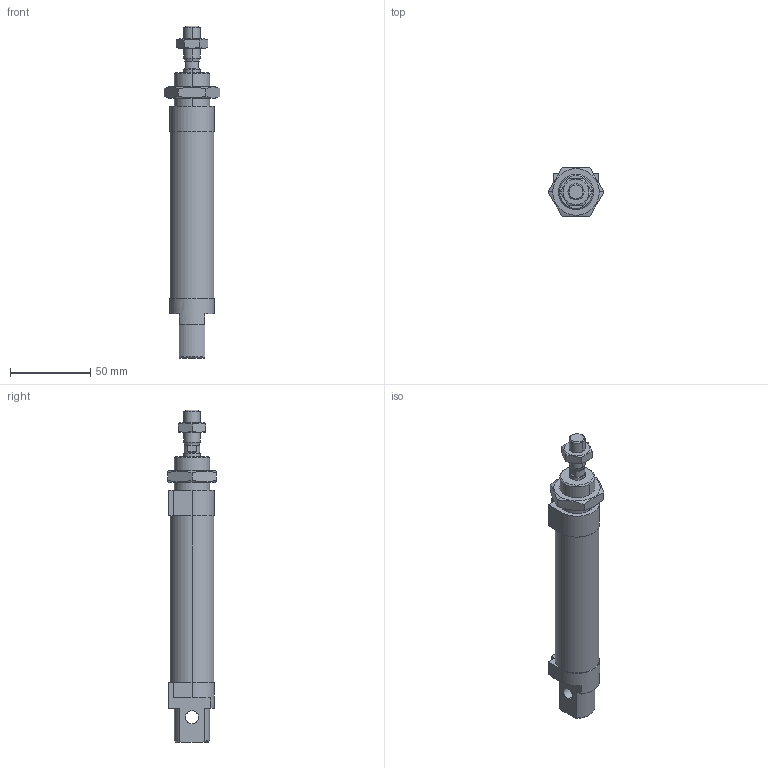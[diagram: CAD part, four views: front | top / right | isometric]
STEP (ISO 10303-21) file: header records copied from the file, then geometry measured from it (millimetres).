
FILE_DESCRIPTION((''),'2;1');
FILE_NAME('5226634650_ASM','2015-04-21T',('vol1hc'),(''),'PRO/ENGINEER BY PARAMETRIC TECHNOLOGY CORPORATION, 2009380','PRO/ENGINEER BY PARAMETRIC TECHNOLOGY CORPORATION, 2009380','');
FILE_SCHEMA(('CONFIG_CONTROL_DESIGN'));
Length unit declared in the file: millimetre
Products named in the file (5): 5226634650-A; 5226634650-B; 5226634650-C; 5226634650-D; 5226634650_ASM
Assembly tree (4 placements, depth 2):
  5226634650_ASM
    5226634650-A
    5226634650-B
    5226634650-C
    5226634650-D
Bounding box: 34.64 x 30 x 207 mm (x, y, z)
Volume: 73103.9 mm3; surface area: 38380 mm2
Topology: 4 solids, 4 shells, 126 faces, 286 edges, 178 vertices
Faces by surface type: plane 56, cylinder 34, cone 34, torus 2
Entity records: 4122 total; most frequent: CARTESIAN_POINT 1116, DIRECTION 630, ORIENTED_EDGE 572, EDGE_CURVE 286, AXIS2_PLACEMENT_3D 245, VERTEX_POINT 178, EDGE_LOOP 142, VECTOR 140
